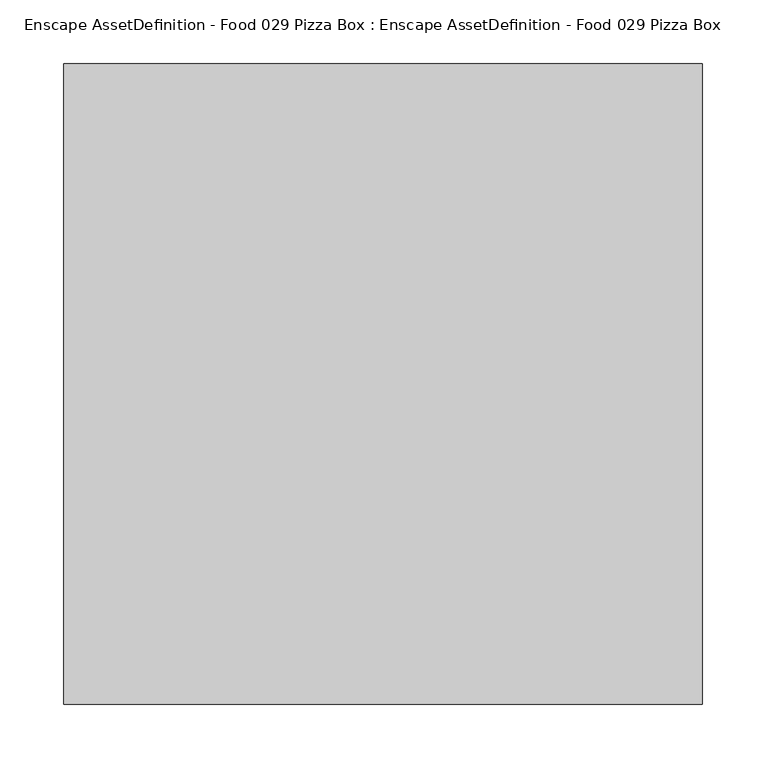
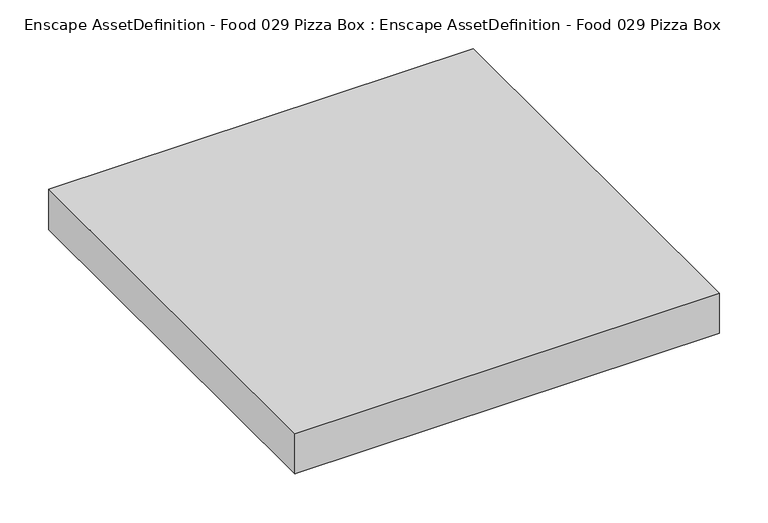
"""IFC4 building model written with IfcOpenShell, lengths in millimetres: geographic element geometry, Enscape AssetDefinition - Food 029 Pizza Box : Enscape AssetDefinition - Food 029 Pizza Box."""

from ifc_helpers import new_model, si_unit, origin, place, context, project, spatial, triangles, source, transform, mapped, element, save


def enscape_assetdefinition_food_029_pizza_box_enscape_38934f0b(model_context):
    return source(origin(), model_context, "Body", "Tessellation", [
        triangles([(-250.2999836, 277.0000072, 0.0), (250.0000019, -225.0000017, 0.0), (-250.2999836, -225.0000017, 0.0), (250.0000019, 277.0000072, 50.0000004), (-250.2999836, -225.0000017, 50.0000004), (-250.2999836, 277.0000072, 50.0000004), (250.0000019, -225.0000017, 50.0000004), (250.0000019, 277.0000072, 0.0)], [[6, 5, 7], [8, 2, 3], [7, 5, 3], [4, 7, 2], [6, 4, 8], [5, 6, 1], [6, 7, 4], [8, 3, 1], [7, 3, 2], [4, 2, 8], [6, 8, 1], [5, 1, 3]]),
    ])


if __name__ == "__main__":
    model = new_model("IFC4")
    model_context = context("Model", 3, world=origin())
    ifc_project = project(units=[si_unit("LENGTHUNIT", "METRE", prefix="MILLI")], contexts=[model_context])
    site = spatial("IfcSite", under=ifc_project)
    building = spatial("IfcBuilding", under=site)
    placement = place(None, origin())
    enscape_assetdefinition_food_029_pizza_box_enscape_shape = enscape_assetdefinition_food_029_pizza_box_enscape_38934f0b(model_context)
    element("IfcGeographicElement", 1, ObjectType="Enscape AssetDefinition - Food 029 Pizza Box : Enscape AssetDefinition - Food 029 Pizza Box", at=placement, inside=building, context=model_context, shape_type="MappedRepresentation", body=[
        mapped(enscape_assetdefinition_food_029_pizza_box_enscape_shape, transform((0.0, 0.0, 0.0), x_axis=(1.0, 0.0, 0.0), y_axis=(0.0, 1.0, 0.0), z_axis=(0.0, 0.0, 1.0))),
    ])
    save(model, "model.ifc")
